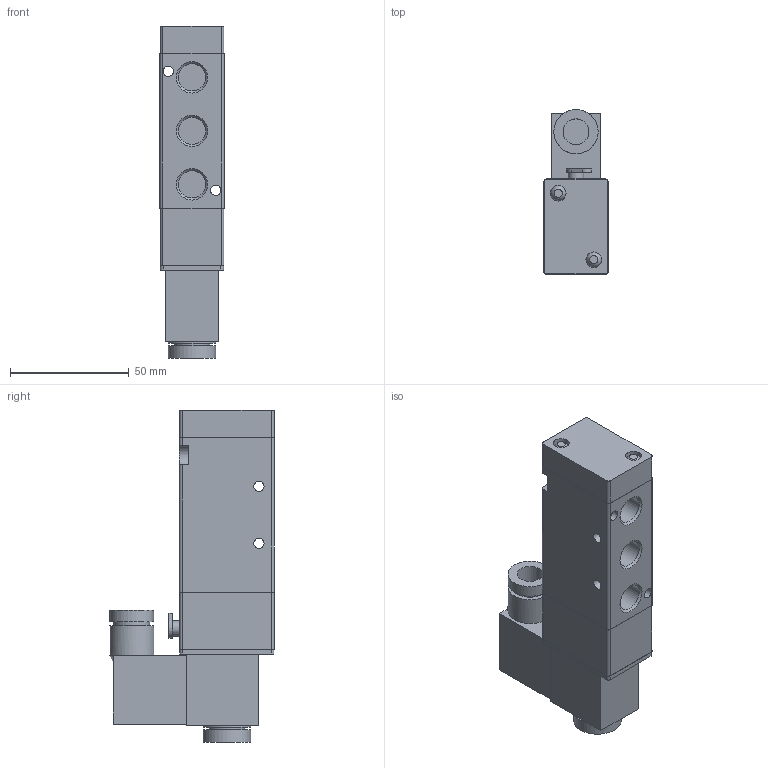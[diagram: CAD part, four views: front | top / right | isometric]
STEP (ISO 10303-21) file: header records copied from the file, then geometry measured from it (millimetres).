
FILE_DESCRIPTION( ( 'STEP AP214' ), '1' );
FILE_NAME( 'C:/Users/emc02044/Desktop/RV五通/RV5231-08QE9.stp', '2026-07-31T04:25:50', ( 'License CC BY-ND 4.0' ), ( 'CADENAS' ), ' ', 'PARTsolutions', ' ' );
FILE_SCHEMA( ( 'AUTOMOTIVE_DESIGN { 1 0 10303 214 1 1 1 1 }' ) );
Length unit declared in the file: millimetre
Products named in the file (1): _RV5231-08QE9
Bounding box: 27 x 69.3 x 139.6 mm (x, y, z)
Volume: 145331.3 mm3; surface area: 28911.6 mm2
Topology: 1 solids, 1 shells, 104 faces, 243 edges, 161 vertices
Faces by surface type: plane 55, cylinder 41, cone 6, sphere 2
Full cylindrical faces by diameter (mm): 4.3 x4, 6.5 x1, 6.6 x2, 10.8 x1, 11.445 x5, 15 x2, 18.6 x2, 20 x2
Entity records: 3701 total; most frequent: DIRECTION 511, CARTESIAN_POINT 494, ORIENTED_EDGE 424, EDGE_CURVE 212, AXIS2_PLACEMENT_3D 195, EDGE_LOOP 158, VERTEX_POINT 156, FACE_OUTER_BOUND 125
